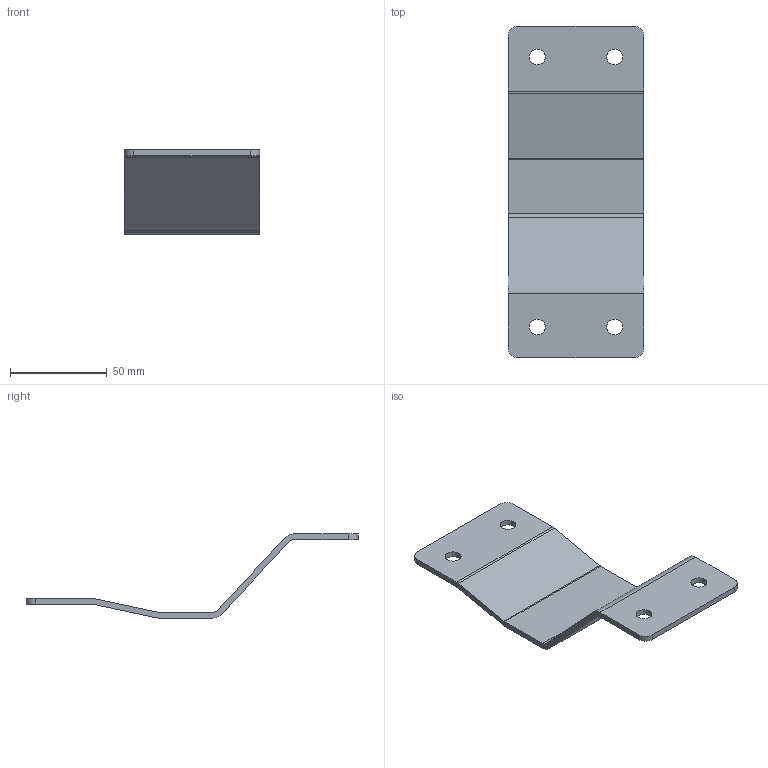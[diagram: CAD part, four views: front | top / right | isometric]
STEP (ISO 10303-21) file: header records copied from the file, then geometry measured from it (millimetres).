
FILE_DESCRIPTION(/* description */ ('BEAM SUPPORT 80x80 TO SERIE 540'),/* implementation_level */ '2;1');
FILE_NAME(/* name */ '500-1232.stp',/* time_stamp */ '2022-09-16T08:24:44+02:00',/* author */ ('PL'),/* organization */ ('CARRYLINE'),/* preprocessor_version */ 'ST-DEVELOPER v19.2',/* originating_system */ 'Autodesk Inventor 2023',/* authorisation */ '');
FILE_SCHEMA (('AUTOMOTIVE_DESIGN { 1 0 10303 214 3 1 1 }'));
Length unit declared in the file: millimetre
Products named in the file (1): 500-1232
Bounding box: 70 x 171.45 x 43.49 mm (x, y, z)
Volume: 39069.7 mm3; surface area: 27886.1 mm2
Topology: 1 solids, 1 shells, 30 faces, 84 edges, 56 vertices
Faces by surface type: cylinder 16, plane 14
Full cylindrical faces by diameter (mm): 8.2 x4
Entity records: 1039 total; most frequent: DIRECTION 178, CARTESIAN_POINT 171, ORIENTED_EDGE 168, EDGE_CURVE 84, AXIS2_PLACEMENT_3D 63, VERTEX_POINT 56, LINE 52, VECTOR 52
